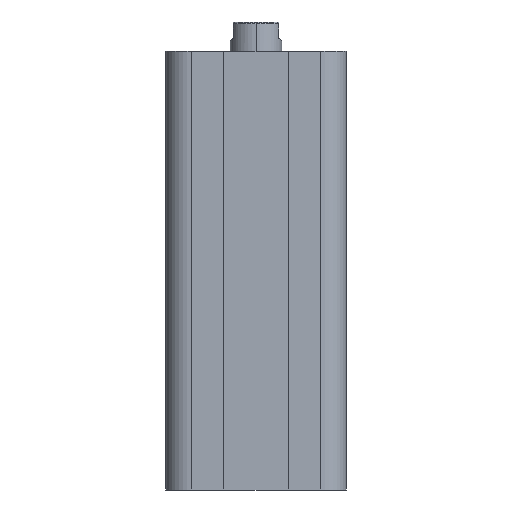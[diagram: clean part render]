
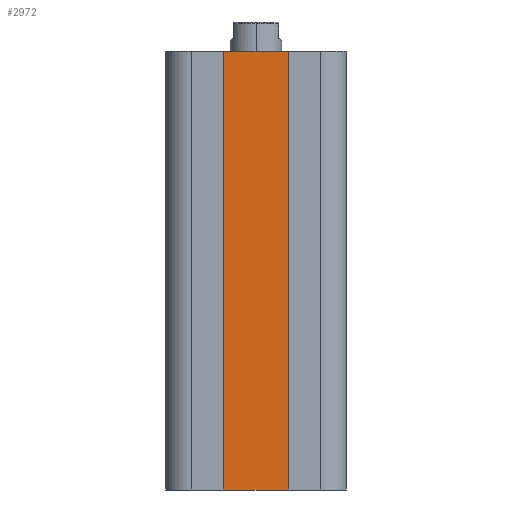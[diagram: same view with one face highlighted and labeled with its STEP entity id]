
A CAD part, front view. The second image highlights one B-rep face of the part: STEP entity #2972.
In plain terms, the highlighted planar face has unit normal (0, -1, 0).
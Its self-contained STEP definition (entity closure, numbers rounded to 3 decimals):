
#144=DIRECTION('',(-1.,0.,0.));
#145=VECTOR('',#144,12.498);
#146=CARTESIAN_POINT('',(6.249,-10.4,0.));
#147=LINE('',#146,#145);
#457=DIRECTION('',(-1.,0.,0.));
#458=VECTOR('',#457,12.498);
#459=CARTESIAN_POINT('',(6.249,-10.4,-68.));
#460=LINE('',#459,#458);
#985=DIRECTION('',(0.,0.,1.));
#986=VECTOR('',#985,68.);
#987=CARTESIAN_POINT('',(6.249,-10.4,-68.));
#988=LINE('',#987,#986);
#989=DIRECTION('',(0.,0.,1.));
#990=VECTOR('',#989,68.);
#991=CARTESIAN_POINT('',(-6.249,-10.4,-68.));
#992=LINE('',#991,#990);
#1327=CARTESIAN_POINT('',(-6.249,-10.4,0.));
#1328=VERTEX_POINT('',#1327);
#1329=CARTESIAN_POINT('',(6.249,-10.4,0.));
#1330=VERTEX_POINT('',#1329);
#1371=CARTESIAN_POINT('',(-6.249,-10.4,-68.));
#1372=VERTEX_POINT('',#1371);
#1373=CARTESIAN_POINT('',(6.249,-10.4,-68.));
#1374=VERTEX_POINT('',#1373);
#2960=CARTESIAN_POINT('',(-6.249,-10.4,0.));
#2961=DIRECTION('',(0.,-1.,0.));
#2962=DIRECTION('',(1.,0.,0.));
#2963=AXIS2_PLACEMENT_3D('',#2960,#2961,#2962);
#2964=PLANE('',#2963);
#2965=ORIENTED_EDGE('',*,*,#1732,.F.);
#2966=ORIENTED_EDGE('',*,*,#2955,.F.);
#2967=ORIENTED_EDGE('',*,*,#2009,.T.);
#2969=ORIENTED_EDGE('',*,*,#2968,.T.);
#2970=EDGE_LOOP('',(#2965,#2966,#2967,#2969));
#2971=FACE_OUTER_BOUND('',#2970,.F.);
#2972=ADVANCED_FACE('',(#2971),#2964,.T.);
#1732=EDGE_CURVE('',#1330,#1328,#147,.T.);
#2009=EDGE_CURVE('',#1374,#1372,#460,.T.);
#2955=EDGE_CURVE('',#1374,#1330,#988,.T.);
#2968=EDGE_CURVE('',#1372,#1328,#992,.T.);
